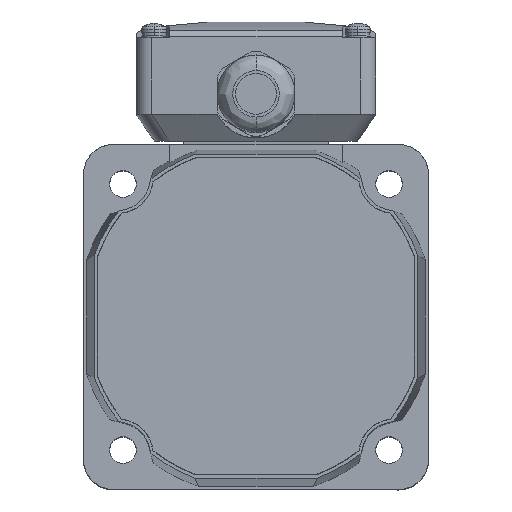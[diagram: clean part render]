
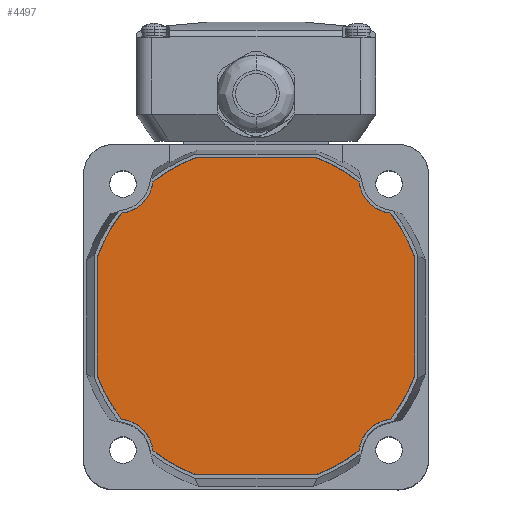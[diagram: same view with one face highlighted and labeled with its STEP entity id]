
A CAD part, top view. The second image highlights one B-rep face of the part: STEP entity #4497.
In plain terms, the highlighted planar face has unit normal (0, 0, 1).
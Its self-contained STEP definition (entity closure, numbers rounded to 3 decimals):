
#3 = CARTESIAN_POINT ( 'NONE',  ( 42.83, -32.887, 157. ) ) ;
#6 = VERTEX_POINT ( 'NONE', #90 ) ;
#69 = CIRCLE ( 'NONE', #6056, 54. ) ;
#74 = VERTEX_POINT ( 'NONE', #3147 ) ;
#88 = CARTESIAN_POINT ( 'NONE',  ( -43.841, 43.841, 157. ) ) ;
#90 = CARTESIAN_POINT ( 'NONE',  ( -50.5, -19.125, 157. ) ) ;
#458 = CARTESIAN_POINT ( 'NONE',  ( -19.125, -50.5, 157. ) ) ;
#497 = DIRECTION ( 'NONE',  ( -1., 0., 0. ) ) ;
#539 = CARTESIAN_POINT ( 'NONE',  ( 43.841, -43.841, 157. ) ) ;
#691 = CIRCLE ( 'NONE', #5194, 54. ) ;
#749 = CIRCLE ( 'NONE', #5775, 11. ) ;
#788 = VERTEX_POINT ( 'NONE', #4316 ) ;
#805 = DIRECTION ( 'NONE',  ( 0., 0., 1. ) ) ;
#833 = DIRECTION ( 'NONE',  ( 0., 0., -1. ) ) ;
#919 = DIRECTION ( 'NONE',  ( 0., 0., 1. ) ) ;
#957 = EDGE_CURVE ( 'NONE', #9106, #74, #4539, .T. ) ;
#1129 = EDGE_CURVE ( 'NONE', #6711, #5439, #5472, .T. ) ;
#1140 = AXIS2_PLACEMENT_3D ( 'NONE', #9460, #1217, #2603 ) ;
#1144 = DIRECTION ( 'NONE',  ( 0., -1., 0. ) ) ;
#1181 = VERTEX_POINT ( 'NONE', #5344 ) ;
#1217 = DIRECTION ( 'NONE',  ( 0., 0., 1. ) ) ;
#1279 = DIRECTION ( 'NONE',  ( 0., 0., 1. ) ) ;
#1365 = CARTESIAN_POINT ( 'NONE',  ( -32.887, 42.83, 157. ) ) ;
#1465 = AXIS2_PLACEMENT_3D ( 'NONE', #2343, #833, #6732 ) ;
#1559 = CARTESIAN_POINT ( 'NONE',  ( 43.841, 43.841, 157. ) ) ;
#1592 = ORIENTED_EDGE ( 'NONE', *, *, #957, .T. ) ;
#1629 = ORIENTED_EDGE ( 'NONE', *, *, #6017, .T. ) ;
#1659 = DIRECTION ( 'NONE',  ( 1., 0., 0. ) ) ;
#1865 = AXIS2_PLACEMENT_3D ( 'NONE', #1559, #6150, #8336 ) ;
#1885 = DIRECTION ( 'NONE',  ( 0., 0., 1. ) ) ;
#1941 = VERTEX_POINT ( 'NONE', #1365 ) ;
#1944 = LINE ( 'NONE', #8854, #6517 ) ;
#1980 = DIRECTION ( 'NONE',  ( 0., 0., -1. ) ) ;
#2060 = EDGE_CURVE ( 'NONE', #1181, #788, #9516, .T. ) ;
#2133 = VECTOR ( 'NONE', #4800, 1000. ) ;
#2168 = ORIENTED_EDGE ( 'NONE', *, *, #2866, .T. ) ;
#2330 = DIRECTION ( 'NONE',  ( -1., 0., 0. ) ) ;
#2343 = CARTESIAN_POINT ( 'NONE',  ( -43.841, -43.841, 157. ) ) ;
#2493 = EDGE_CURVE ( 'NONE', #8355, #6220, #8675, .T. ) ;
#2529 = CIRCLE ( 'NONE', #4177, 54. ) ;
#2603 = DIRECTION ( 'NONE',  ( -1., 0., 0. ) ) ;
#2627 = CARTESIAN_POINT ( 'NONE',  ( 0., 0., 157. ) ) ;
#2801 = VERTEX_POINT ( 'NONE', #5371 ) ;
#2842 = DIRECTION ( 'NONE',  ( 0., 0., 1. ) ) ;
#2866 = EDGE_CURVE ( 'NONE', #1941, #9106, #749, .T. ) ;
#2870 = DIRECTION ( 'NONE',  ( -1., 0., 0. ) ) ;
#2969 = VERTEX_POINT ( 'NONE', #6161 ) ;
#3037 = CARTESIAN_POINT ( 'NONE',  ( 0., 0., 157. ) ) ;
#3147 = CARTESIAN_POINT ( 'NONE',  ( -50.5, 19.125, 157. ) ) ;
#3212 = CARTESIAN_POINT ( 'NONE',  ( 0., 0., 157. ) ) ;
#3273 = CARTESIAN_POINT ( 'NONE',  ( 19.125, 50.5, 157. ) ) ;
#3379 = DIRECTION ( 'NONE',  ( 0., 0., 1. ) ) ;
#3611 = AXIS2_PLACEMENT_3D ( 'NONE', #3212, #7775, #9196 ) ;
#3623 = VERTEX_POINT ( 'NONE', #4842 ) ;
#3671 = CARTESIAN_POINT ( 'NONE',  ( 0., 0., 157. ) ) ;
#3871 = CARTESIAN_POINT ( 'NONE',  ( -42.83, 32.887, 157. ) ) ;
#3904 = AXIS2_PLACEMENT_3D ( 'NONE', #5675, #1885, #497 ) ;
#4065 = ORIENTED_EDGE ( 'NONE', *, *, #7270, .T. ) ;
#4066 = AXIS2_PLACEMENT_3D ( 'NONE', #539, #1980, #6575 ) ;
#4123 = DIRECTION ( 'NONE',  ( -1., 0., 0. ) ) ;
#4124 = AXIS2_PLACEMENT_3D ( 'NONE', #2627, #3379, #4123 ) ;
#4177 = AXIS2_PLACEMENT_3D ( 'NONE', #3037, #805, #5929 ) ;
#4206 = CARTESIAN_POINT ( 'NONE',  ( 32.887, 42.83, 157. ) ) ;
#4316 = CARTESIAN_POINT ( 'NONE',  ( -32.887, -42.83, 157. ) ) ;
#4445 = ORIENTED_EDGE ( 'NONE', *, *, #7680, .T. ) ;
#4497 = ADVANCED_FACE ( 'NONE', ( #8830 ), #4785, .T. ) ;
#4539 = CIRCLE ( 'NONE', #7537, 54. ) ;
#4607 = EDGE_CURVE ( 'NONE', #8848, #8355, #5907, .T. ) ;
#4785 = PLANE ( 'NONE',  #3611 ) ;
#4800 = DIRECTION ( 'NONE',  ( 0., 1., 0. ) ) ;
#4842 = CARTESIAN_POINT ( 'NONE',  ( 32.887, -42.83, 157. ) ) ;
#4963 = CARTESIAN_POINT ( 'NONE',  ( 0., 0., 157. ) ) ;
#4996 = CARTESIAN_POINT ( 'NONE',  ( 0., 0., 157. ) ) ;
#5153 = ORIENTED_EDGE ( 'NONE', *, *, #7627, .T. ) ;
#5170 = CIRCLE ( 'NONE', #4124, 54. ) ;
#5194 = AXIS2_PLACEMENT_3D ( 'NONE', #3671, #919, #8297 ) ;
#5330 = ORIENTED_EDGE ( 'NONE', *, *, #2060, .T. ) ;
#5344 = CARTESIAN_POINT ( 'NONE',  ( -42.83, -32.887, 157. ) ) ;
#5371 = CARTESIAN_POINT ( 'NONE',  ( 42.83, 32.887, 157. ) ) ;
#5439 = VERTEX_POINT ( 'NONE', #7965 ) ;
#5472 = LINE ( 'NONE', #6964, #5838 ) ;
#5494 = ORIENTED_EDGE ( 'NONE', *, *, #7515, .T. ) ;
#5515 = CIRCLE ( 'NONE', #1140, 54. ) ;
#5657 = CARTESIAN_POINT ( 'NONE',  ( 50.5, 0., 157. ) ) ;
#5675 = CARTESIAN_POINT ( 'NONE',  ( 0., 0., 157. ) ) ;
#5775 = AXIS2_PLACEMENT_3D ( 'NONE', #88, #9061, #7607 ) ;
#5800 = CARTESIAN_POINT ( 'NONE',  ( 50.5, -19.125, 157. ) ) ;
#5828 = AXIS2_PLACEMENT_3D ( 'NONE', #7566, #6817, #2330 ) ;
#5838 = VECTOR ( 'NONE', #1659, 1000. ) ;
#5907 = CIRCLE ( 'NONE', #3904, 54. ) ;
#5929 = DIRECTION ( 'NONE',  ( -1., 0., 0. ) ) ;
#5949 = VERTEX_POINT ( 'NONE', #4206 ) ;
#6017 = EDGE_CURVE ( 'NONE', #6220, #2801, #69, .T. ) ;
#6056 = AXIS2_PLACEMENT_3D ( 'NONE', #4996, #2842, #7226 ) ;
#6122 = EDGE_CURVE ( 'NONE', #2801, #5949, #7869, .T. ) ;
#6150 = DIRECTION ( 'NONE',  ( 0., 0., -1. ) ) ;
#6161 = CARTESIAN_POINT ( 'NONE',  ( -19.125, 50.5, 157. ) ) ;
#6220 = VERTEX_POINT ( 'NONE', #8460 ) ;
#6348 = CIRCLE ( 'NONE', #4066, 11. ) ;
#6362 = CIRCLE ( 'NONE', #5828, 54. ) ;
#6517 = VECTOR ( 'NONE', #2870, 1000. ) ;
#6542 = ORIENTED_EDGE ( 'NONE', *, *, #1129, .T. ) ;
#6575 = DIRECTION ( 'NONE',  ( -1., 0., 0. ) ) ;
#6698 = EDGE_CURVE ( 'NONE', #6, #1181, #5515, .T. ) ;
#6711 = VERTEX_POINT ( 'NONE', #458 ) ;
#6732 = DIRECTION ( 'NONE',  ( -1., 0., 0. ) ) ;
#6817 = DIRECTION ( 'NONE',  ( 0., 0., 1. ) ) ;
#6838 = ORIENTED_EDGE ( 'NONE', *, *, #6122, .T. ) ;
#6964 = CARTESIAN_POINT ( 'NONE',  ( 0., -50.5, 157. ) ) ;
#7077 = EDGE_CURVE ( 'NONE', #5439, #3623, #6362, .T. ) ;
#7226 = DIRECTION ( 'NONE',  ( -1., 0., 0. ) ) ;
#7270 = EDGE_CURVE ( 'NONE', #74, #6, #7462, .T. ) ;
#7422 = ORIENTED_EDGE ( 'NONE', *, *, #7077, .T. ) ;
#7437 = ORIENTED_EDGE ( 'NONE', *, *, #4607, .T. ) ;
#7462 = LINE ( 'NONE', #9392, #8733 ) ;
#7515 = EDGE_CURVE ( 'NONE', #5949, #8551, #2529, .T. ) ;
#7537 = AXIS2_PLACEMENT_3D ( 'NONE', #4963, #1279, #8715 ) ;
#7566 = CARTESIAN_POINT ( 'NONE',  ( 0., 0., 157. ) ) ;
#7585 = ORIENTED_EDGE ( 'NONE', *, *, #8217, .T. ) ;
#7607 = DIRECTION ( 'NONE',  ( -1., 0., 0. ) ) ;
#7627 = EDGE_CURVE ( 'NONE', #2969, #1941, #691, .T. ) ;
#7680 = EDGE_CURVE ( 'NONE', #8551, #2969, #1944, .T. ) ;
#7775 = DIRECTION ( 'NONE',  ( 0., 0., 1. ) ) ;
#7869 = CIRCLE ( 'NONE', #1865, 11. ) ;
#7965 = CARTESIAN_POINT ( 'NONE',  ( 19.125, -50.5, 157. ) ) ;
#8046 = ORIENTED_EDGE ( 'NONE', *, *, #6698, .T. ) ;
#8078 = EDGE_CURVE ( 'NONE', #3623, #8848, #6348, .T. ) ;
#8217 = EDGE_CURVE ( 'NONE', #788, #6711, #5170, .T. ) ;
#8297 = DIRECTION ( 'NONE',  ( -1., 0., 0. ) ) ;
#8336 = DIRECTION ( 'NONE',  ( -1., 0., 0. ) ) ;
#8355 = VERTEX_POINT ( 'NONE', #5800 ) ;
#8460 = CARTESIAN_POINT ( 'NONE',  ( 50.5, 19.125, 157. ) ) ;
#8551 = VERTEX_POINT ( 'NONE', #3273 ) ;
#8675 = LINE ( 'NONE', #5657, #2133 ) ;
#8715 = DIRECTION ( 'NONE',  ( -1., 0., 0. ) ) ;
#8733 = VECTOR ( 'NONE', #1144, 1000. ) ;
#8830 = FACE_OUTER_BOUND ( 'NONE', #9280, .T. ) ;
#8848 = VERTEX_POINT ( 'NONE', #3 ) ;
#8854 = CARTESIAN_POINT ( 'NONE',  ( 0., 50.5, 157. ) ) ;
#9061 = DIRECTION ( 'NONE',  ( 0., 0., -1. ) ) ;
#9106 = VERTEX_POINT ( 'NONE', #3871 ) ;
#9196 = DIRECTION ( 'NONE',  ( 1., 0., 0. ) ) ;
#9280 = EDGE_LOOP ( 'NONE', ( #1592, #4065, #8046, #5330, #7585, #6542, #7422, #9640, #7437, #9317, #1629, #6838, #5494, #4445, #5153, #2168 ) ) ;
#9317 = ORIENTED_EDGE ( 'NONE', *, *, #2493, .T. ) ;
#9392 = CARTESIAN_POINT ( 'NONE',  ( -50.5, 0., 157. ) ) ;
#9460 = CARTESIAN_POINT ( 'NONE',  ( 0., 0., 157. ) ) ;
#9516 = CIRCLE ( 'NONE', #1465, 11. ) ;
#9640 = ORIENTED_EDGE ( 'NONE', *, *, #8078, .T. ) ;
